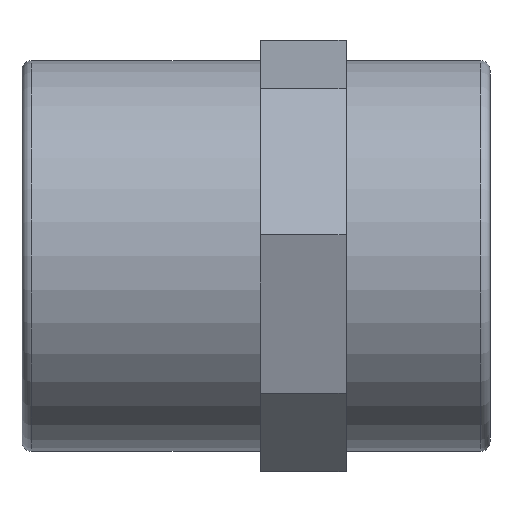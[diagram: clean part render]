
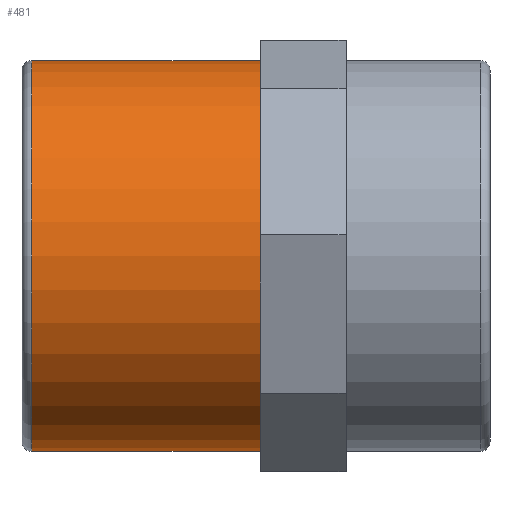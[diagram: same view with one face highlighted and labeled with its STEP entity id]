
A CAD part, front view. The second image highlights one B-rep face of the part: STEP entity #481.
In plain terms, the highlighted cylindrical face has radius 20.5 mm (diameter 41 mm), a full revolution.
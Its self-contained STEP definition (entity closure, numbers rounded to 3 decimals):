
#48=CYLINDRICAL_SURFACE('',#524,20.5);
#60=FACE_BOUND('',#145,.T.);
#71=CIRCLE('',#511,20.5);
#78=CIRCLE('',#525,20.5);
#104=FACE_OUTER_BOUND('',#144,.T.);
#144=EDGE_LOOP('',(#388));
#145=EDGE_LOOP('',(#389));
#237=VERTEX_POINT('',#713);
#244=VERTEX_POINT('',#734);
#291=EDGE_CURVE('',#237,#237,#71,.T.);
#298=EDGE_CURVE('',#244,#244,#78,.T.);
#388=ORIENTED_EDGE('',*,*,#291,.T.);
#389=ORIENTED_EDGE('',*,*,#298,.F.);
#481=ADVANCED_FACE('',(#104,#60),#48,.T.);
#511=AXIS2_PLACEMENT_3D('',#714,#591,#592);
#524=AXIS2_PLACEMENT_3D('',#733,#617,#618);
#525=AXIS2_PLACEMENT_3D('',#735,#619,#620);
#591=DIRECTION('center_axis',(-1.,0.,0.));
#592=DIRECTION('ref_axis',(0.,-1.,0.));
#617=DIRECTION('center_axis',(-1.,0.,0.));
#618=DIRECTION('ref_axis',(0.,-1.,0.));
#619=DIRECTION('center_axis',(-1.,0.,0.));
#620=DIRECTION('ref_axis',(0.,1.,0.));
#713=CARTESIAN_POINT('',(25.,20.5,0.));
#714=CARTESIAN_POINT('Origin',(25.,0.,0.));
#733=CARTESIAN_POINT('Origin',(24.55,0.,0.));
#734=CARTESIAN_POINT('',(1.,-20.5,0.));
#735=CARTESIAN_POINT('Origin',(1.,0.,0.));
